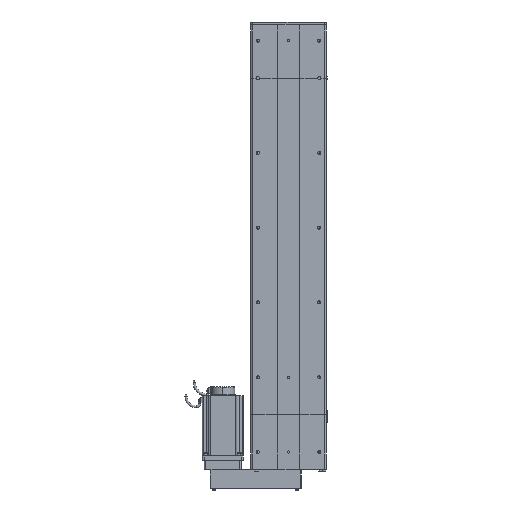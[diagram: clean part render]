
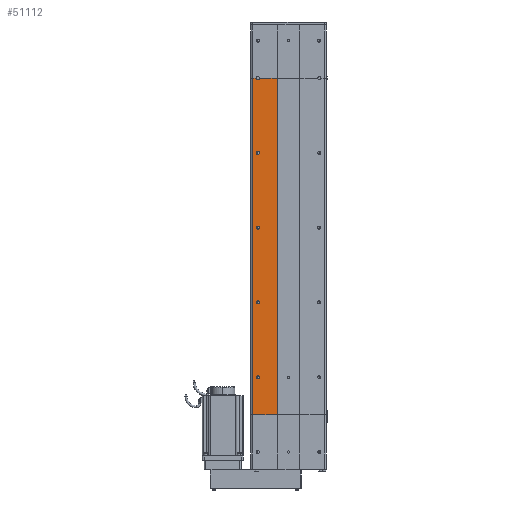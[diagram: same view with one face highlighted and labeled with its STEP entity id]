
A CAD part, front view. The second image highlights one B-rep face of the part: STEP entity #51112.
In plain terms, the highlighted planar face has unit normal (0, -1, 0).
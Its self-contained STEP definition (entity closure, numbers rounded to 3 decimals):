
#6825 = CARTESIAN_POINT ( 'NONE',  ( -82., -34.5, 300. ) ) ;
#6920 = DIRECTION ( 'NONE',  ( 1., 0., 0. ) ) ;
#6922 = DIRECTION ( 'NONE',  ( 0., -1., 0. ) ) ;
#7034 = CIRCLE ( 'NONE', #7219, 4. ) ;
#7219 = AXIS2_PLACEMENT_3D ( 'NONE', #6825, #6922, #6920 ) ;
#7397 = CARTESIAN_POINT ( 'NONE',  ( -78., -34.5, 500. ) ) ;
#7402 = CIRCLE ( 'NONE', #7608, 4. ) ;
#7601 = CARTESIAN_POINT ( 'NONE',  ( -86., -34.5, 500. ) ) ;
#7608 = AXIS2_PLACEMENT_3D ( 'NONE', #7717, #7715, #7714 ) ;
#7624 = CARTESIAN_POINT ( 'NONE',  ( -86., -34.5, 700. ) ) ;
#7714 = DIRECTION ( 'NONE',  ( 1., 0., 0. ) ) ;
#7715 = DIRECTION ( 'NONE',  ( 0., -1., 0. ) ) ;
#7717 = CARTESIAN_POINT ( 'NONE',  ( -82., -34.5, 500. ) ) ;
#7991 = DIRECTION ( 'NONE',  ( 0., -1., 0. ) ) ;
#7995 = AXIS2_PLACEMENT_3D ( 'NONE', #8262, #7991, #8158 ) ;
#8158 = DIRECTION ( 'NONE',  ( 1., 0., 0. ) ) ;
#8165 = CIRCLE ( 'NONE', #7995, 4. ) ;
#8203 = CARTESIAN_POINT ( 'NONE',  ( -78., -34.5, 700. ) ) ;
#8262 = CARTESIAN_POINT ( 'NONE',  ( -82., -34.5, 700. ) ) ;
#8532 = CARTESIAN_POINT ( 'NONE',  ( -86., -34.5, 300. ) ) ;
#8889 = AXIS2_PLACEMENT_3D ( 'NONE', #9037, #9036, #9035 ) ;
#8906 = CARTESIAN_POINT ( 'NONE',  ( -78., -34.5, 300. ) ) ;
#9035 = DIRECTION ( 'NONE',  ( 1., 0., 0. ) ) ;
#9036 = DIRECTION ( 'NONE',  ( 0., -1., 0. ) ) ;
#9037 = CARTESIAN_POINT ( 'NONE',  ( -82., -34.5, 100. ) ) ;
#9054 = CIRCLE ( 'NONE', #8889, 4. ) ;
#9212 = CARTESIAN_POINT ( 'NONE',  ( -78., -34.5, 900. ) ) ;
#9431 = CARTESIAN_POINT ( 'NONE',  ( -78., -34.5, 100. ) ) ;
#9544 = CARTESIAN_POINT ( 'NONE',  ( -30., -34.5, 900. ) ) ;
#9564 = CARTESIAN_POINT ( 'NONE',  ( -86., -34.5, 100. ) ) ;
#9994 = DIRECTION ( 'NONE',  ( 1., 0., 0. ) ) ;
#9995 = VECTOR ( 'NONE', #9994, 1000. ) ;
#9997 = CARTESIAN_POINT ( 'NONE',  ( -96., -34.5, 900. ) ) ;
#9998 = LINE ( 'NONE', #9997, #9995 ) ;
#10528 = DIRECTION ( 'NONE',  ( 1., 0., 0. ) ) ;
#10529 = VECTOR ( 'NONE', #10528, 1000. ) ;
#10592 = CARTESIAN_POINT ( 'NONE',  ( -96., -34.5, 900. ) ) ;
#10593 = LINE ( 'NONE', #10592, #10529 ) ;
#10735 = CARTESIAN_POINT ( 'NONE',  ( -96., -34.5, 900. ) ) ;
#10936 = CARTESIAN_POINT ( 'NONE',  ( -86., -34.5, 900. ) ) ;
#11946 = DIRECTION ( 'NONE',  ( 0., 0., 1. ) ) ;
#11948 = VECTOR ( 'NONE', #11946, 1000. ) ;
#11950 = CARTESIAN_POINT ( 'NONE',  ( -30., -34.5, 0. ) ) ;
#11957 = DIRECTION ( 'NONE',  ( 1., 0., 0. ) ) ;
#11961 = VECTOR ( 'NONE', #11957, 1000. ) ;
#11967 = LINE ( 'NONE', #11950, #11948 ) ;
#12066 = CARTESIAN_POINT ( 'NONE',  ( -96., -34.5, 0. ) ) ;
#12092 = LINE ( 'NONE', #12066, #11961 ) ;
#12193 = DIRECTION ( 'NONE',  ( -1., 0., 0. ) ) ;
#12195 = DIRECTION ( 'NONE',  ( 0., 1., 0. ) ) ;
#12196 = CARTESIAN_POINT ( 'NONE',  ( -96., -34.5, 900. ) ) ;
#12305 = FACE_BOUND ( 'NONE', #51110, .T. ) ;
#12309 = CARTESIAN_POINT ( 'NONE',  ( -82., -34.5, 700. ) ) ;
#12331 = DIRECTION ( 'NONE',  ( 1., 0., 0. ) ) ;
#12349 = AXIS2_PLACEMENT_3D ( 'NONE', #12309, #12520, #12331 ) ;
#12350 = CIRCLE ( 'NONE', #12349, 4. ) ;
#12363 = FACE_BOUND ( 'NONE', #51042, .T. ) ;
#12383 = FACE_BOUND ( 'NONE', #51046, .T. ) ;
#12384 = PLANE ( 'NONE',  #12407 ) ;
#12385 = FACE_OUTER_BOUND ( 'NONE', #51225, .T. ) ;
#12390 = FACE_BOUND ( 'NONE', #51215, .T. ) ;
#12407 = AXIS2_PLACEMENT_3D ( 'NONE', #12196, #12195, #12193 ) ;
#12520 = DIRECTION ( 'NONE',  ( 0., -1., 0. ) ) ;
#12624 = CIRCLE ( 'NONE', #12896, 4. ) ;
#12630 = DIRECTION ( 'NONE',  ( 0., -1., 0. ) ) ;
#12631 = DIRECTION ( 'NONE',  ( 0., 0., -1. ) ) ;
#12632 = VECTOR ( 'NONE', #12631, 1000. ) ;
#12728 = CIRCLE ( 'NONE', #12869, 4. ) ;
#12770 = DIRECTION ( 'NONE',  ( 1., 0., 0. ) ) ;
#12771 = DIRECTION ( 'NONE',  ( 0., -1., 0. ) ) ;
#12772 = CARTESIAN_POINT ( 'NONE',  ( -96., -34.5, 900. ) ) ;
#12773 = LINE ( 'NONE', #12772, #12632 ) ;
#12774 = CARTESIAN_POINT ( 'NONE',  ( -96., -34.5, 0. ) ) ;
#12775 = CARTESIAN_POINT ( 'NONE',  ( -30., -34.5, 0. ) ) ;
#12826 = DIRECTION ( 'NONE',  ( 1., 0., 0. ) ) ;
#12852 = DIRECTION ( 'NONE',  ( 0., -1., 0. ) ) ;
#12853 = CARTESIAN_POINT ( 'NONE',  ( -82., -34.5, 100. ) ) ;
#12854 = AXIS2_PLACEMENT_3D ( 'NONE', #12853, #12852, #12826 ) ;
#12855 = CIRCLE ( 'NONE', #12854, 4. ) ;
#12862 = DIRECTION ( 'NONE',  ( 1., 0., 0. ) ) ;
#12863 = DIRECTION ( 'NONE',  ( 0., -1., 0. ) ) ;
#12864 = CARTESIAN_POINT ( 'NONE',  ( -82., -34.5, 300. ) ) ;
#12865 = AXIS2_PLACEMENT_3D ( 'NONE', #12864, #12863, #12862 ) ;
#12867 = CIRCLE ( 'NONE', #12865, 4. ) ;
#12869 = AXIS2_PLACEMENT_3D ( 'NONE', #12876, #12771, #12770 ) ;
#12874 = CARTESIAN_POINT ( 'NONE',  ( -82., -34.5, 500. ) ) ;
#12876 = CARTESIAN_POINT ( 'NONE',  ( -82., -34.5, 900. ) ) ;
#12893 = DIRECTION ( 'NONE',  ( 1., 0., 0. ) ) ;
#12896 = AXIS2_PLACEMENT_3D ( 'NONE', #12874, #12630, #12893 ) ;
#49405 = EDGE_CURVE ( 'NONE', #49804, #49869, #7034, .T. ) ;
#49505 = VERTEX_POINT ( 'NONE', #7624 ) ;
#49528 = VERTEX_POINT ( 'NONE', #7397 ) ;
#49530 = VERTEX_POINT ( 'NONE', #7601 ) ;
#49539 = EDGE_CURVE ( 'NONE', #49530, #49528, #7402, .T. ) ;
#49625 = VERTEX_POINT ( 'NONE', #8203 ) ;
#49632 = EDGE_CURVE ( 'NONE', #49505, #49625, #8165, .T. ) ;
#49804 = VERTEX_POINT ( 'NONE', #8532 ) ;
#49869 = VERTEX_POINT ( 'NONE', #8906 ) ;
#49929 = EDGE_CURVE ( 'NONE', #49999, #49995, #9054, .T. ) ;
#49995 = VERTEX_POINT ( 'NONE', #9431 ) ;
#49999 = VERTEX_POINT ( 'NONE', #9564 ) ;
#50014 = VERTEX_POINT ( 'NONE', #9212 ) ;
#50022 = VERTEX_POINT ( 'NONE', #9544 ) ;
#50232 = EDGE_CURVE ( 'NONE', #50014, #50022, #9998, .T. ) ;
#50448 = EDGE_CURVE ( 'NONE', #50589, #50450, #10593, .T. ) ;
#50450 = VERTEX_POINT ( 'NONE', #10936 ) ;
#50589 = VERTEX_POINT ( 'NONE', #10735 ) ;
#51013 = ORIENTED_EDGE ( 'NONE', *, *, #51200, .T. ) ;
#51014 = ORIENTED_EDGE ( 'NONE', *, *, #50448, .F. ) ;
#51015 = EDGE_CURVE ( 'NONE', #51198, #51197, #12092, .T. ) ;
#51017 = EDGE_CURVE ( 'NONE', #51197, #50022, #11967, .T. ) ;
#51042 = EDGE_LOOP ( 'NONE', ( #51213, #51062 ) ) ;
#51044 = ORIENTED_EDGE ( 'NONE', *, *, #51050, .F. ) ;
#51046 = EDGE_LOOP ( 'NONE', ( #51207, #51223 ) ) ;
#51050 = EDGE_CURVE ( 'NONE', #49625, #49505, #12350, .T. ) ;
#51062 = ORIENTED_EDGE ( 'NONE', *, *, #49539, .F. ) ;
#51105 = ORIENTED_EDGE ( 'NONE', *, *, #51017, .T. ) ;
#51110 = EDGE_LOOP ( 'NONE', ( #51044, #51209 ) ) ;
#51112 = ADVANCED_FACE ( 'NONE', ( #12305, #12363, #12383, #12390, #12385 ), #12384, .F. ) ;
#51195 = EDGE_CURVE ( 'NONE', #50450, #50014, #12728, .T. ) ;
#51197 = VERTEX_POINT ( 'NONE', #12775 ) ;
#51198 = VERTEX_POINT ( 'NONE', #12774 ) ;
#51200 = EDGE_CURVE ( 'NONE', #50589, #51198, #12773, .T. ) ;
#51205 = ORIENTED_EDGE ( 'NONE', *, *, #51015, .T. ) ;
#51207 = ORIENTED_EDGE ( 'NONE', *, *, #51222, .F. ) ;
#51209 = ORIENTED_EDGE ( 'NONE', *, *, #49632, .F. ) ;
#51211 = EDGE_CURVE ( 'NONE', #49528, #49530, #12624, .T. ) ;
#51213 = ORIENTED_EDGE ( 'NONE', *, *, #51211, .F. ) ;
#51215 = EDGE_LOOP ( 'NONE', ( #51229, #51227 ) ) ;
#51217 = ORIENTED_EDGE ( 'NONE', *, *, #51195, .F. ) ;
#51221 = ORIENTED_EDGE ( 'NONE', *, *, #50232, .F. ) ;
#51222 = EDGE_CURVE ( 'NONE', #49869, #49804, #12867, .T. ) ;
#51223 = ORIENTED_EDGE ( 'NONE', *, *, #49405, .F. ) ;
#51225 = EDGE_LOOP ( 'NONE', ( #51221, #51217, #51014, #51013, #51205, #51105 ) ) ;
#51226 = EDGE_CURVE ( 'NONE', #49995, #49999, #12855, .T. ) ;
#51227 = ORIENTED_EDGE ( 'NONE', *, *, #49929, .F. ) ;
#51229 = ORIENTED_EDGE ( 'NONE', *, *, #51226, .F. ) ;
